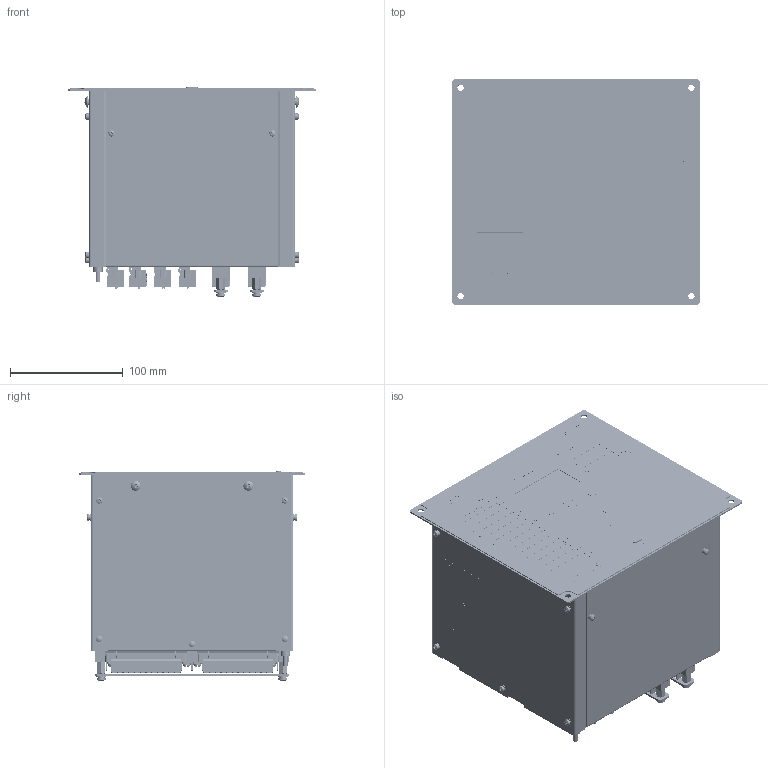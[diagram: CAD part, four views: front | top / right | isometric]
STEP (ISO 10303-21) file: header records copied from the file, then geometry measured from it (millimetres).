
FILE_DESCRIPTION(('STEP AP214'), '1');
FILE_NAME('ﾒﾐﾁﾍ.656122.001-30_31 - ﾊﾈﾒ-ﾐ', '', ('UNSPECIFIED'), ('UNSPECIFIED'), 'C3D Converter', 'C3D Toolkit', '');
FILE_SCHEMA(('AUTOMOTIVE_DESIGN { 1 0 10303 214 3 1 1}'));
Length unit declared in the file: millimetre
Products named in the file (74): ТРБН.656122.001-30_31; ТРБН.741128.001; ТРБН.745222.001; ТРБН.301732.001; ТРБН.745422.001; ТРБН.301261.001-30; ТРБН.745512.001-30; ТРБН.434416.011; ТРБН.754342.001; ТРБН.754342.002; ТРБН.434416.012; ТРБН.754342.002-01; ТРБН.434416.013; ТРБН.754342.002-02; ТРБН.434416.014; ТРБН.754342.001-01; ТРБН.754342.002-05; ТРБН.434416.015; ТРБН.754342.002-06; ТРБН.741134.002; ТРБН.754312.001; ТРБН.754342.006; 45H-08P; 45H-08P-01; 691317510004; 6913175100xx_PIN; 6913175100xx_INSERT; -01; 2EDGRHM-5.08-24P-14-00A(H); ТРБН.434416.016; ТРБН.754342.002-07; ТРБН.434416.017; ТРБН.754342.002-08; 691317510012; ТРБН.434416.018; ТРБН.754342.002-03; ТРБН.434416.019; ТРБН.754342.002-04
Assembly tree (160 placements, depth 4):
  ТРБН.656122.001-30_31
    (unnamed)
      ТРБН.741128.001
      ТРБН.745222.001  x2
    ТРБН.301732.001  x2
      ТРБН.745422.001
      (unnamed)
      (unnamed)
    ТРБН.301261.001-30
      ТРБН.745512.001-30
      (unnamed)  x2
      (unnamed)
    (unnamed)  x4
    (unnamed)
    (unnamed)
    (unnamed)  x10
    (unnamed)
    (unnamed)  x3
    (unnamed)  x12
    (unnamed)  x2
    (unnamed)  x4
    (unnamed)  x4
    (unnamed)  x4
    ТРБН.434416.011
      (unnamed)
      ТРБН.754342.001
      ТРБН.754342.002
    ТРБН.434416.012
      (unnamed)
      ТРБН.754342.001
      ТРБН.754342.002-01
    ТРБН.434416.013
      (unnamed)
      ТРБН.754342.001
      ТРБН.754342.002-02
    ТРБН.434416.014
      (unnamed)
      ТРБН.754342.001-01
      ТРБН.754342.002-05
    ТРБН.434416.015
      (unnamed)
      ТРБН.754342.001-01
      ТРБН.754342.002-06
    ТРБН.741134.002  x2
    ТРБН.754312.001
    (unnamed)
    (unnamed)
    (unnamed)
    (unnamed)
    ТРБН.754342.006
    (unnamed)
    (unnamed)
    (unnamed)  x10
    (unnamed)  x2
    (unnamed)
    (unnamed)  x2
      45H-08P
      45H-08P-01
    (unnamed)  x4
    (unnamed)  x3
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Bounding box: 220 x 200 x 187.02 mm (x, y, z)
Volume: 514243.9 mm3; surface area: 703418.8 mm2
Topology: 283 solids, 301 shells, 44460 faces, 125023 edges, 82307 vertices
Faces by surface type: plane 26009, cylinder 14399, extrusion 2508, torus 908, bspline 368, cone 245, sphere 23
Full cylindrical faces by diameter (mm): 0.405 x8, 0.482 x8, 0.804 x1, 1.371 x1, 1.6 x8, 1.771 x1, 1.8 x18, 2.459 x6, 2.5 x18, 2.6 x20, 2.75 x36, 3 x14, 3.2 x22, 3.242 x5, 3.3 x84, 3.301 x32, 3.4 x8, 3.5 x86, 3.85 x18, 4 x94, 4.2 x6, 4.22 x6, 4.3 x4, 4.5 x13, 5 x6, 5.6 x20, 5.7 x4, 6 x14, 6.35 x6, 6.8 x1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
Entity records: 1289095 total; most frequent: CARTESIAN_POINT 244634, ORIENTED_EDGE 174050, DIRECTION 158392, EDGE_CURVE 87025, VECTOR 63344, LINE 60836, VERTEX_POINT 57883, AXIS2_PLACEMENT_3D 47524
